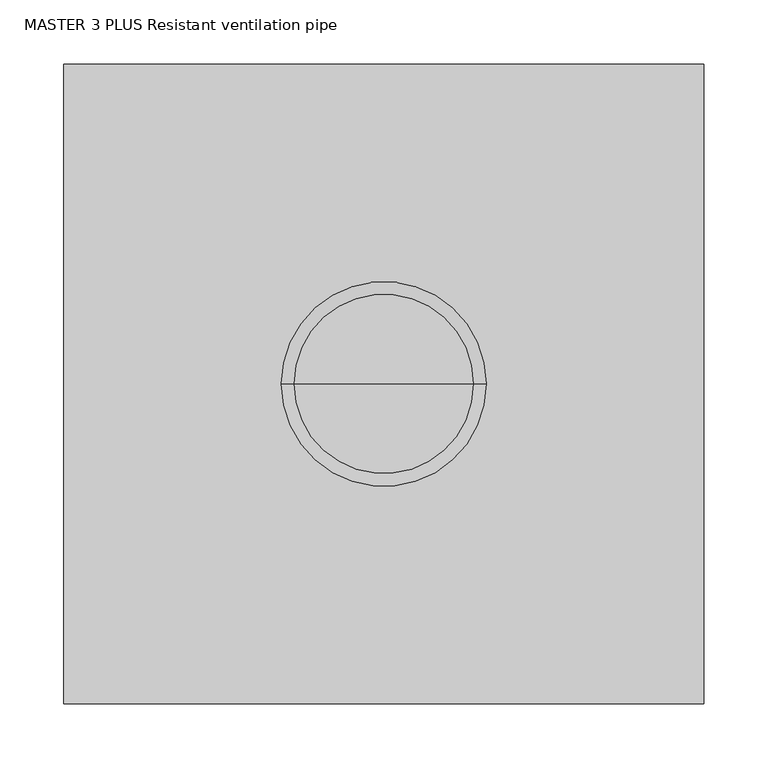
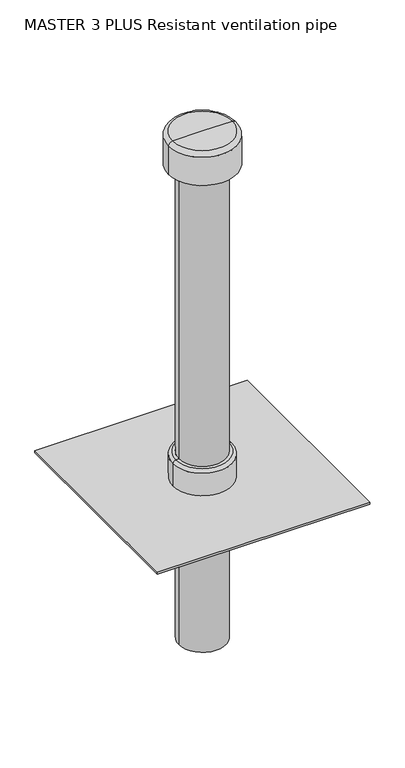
"""IFC4 building model written with IfcOpenShell, lengths in millimetres: valve geometry, MASTER 3 PLUS Resistant ventilation pipe : DN110, Lesp = 400, L3 = 860 mm."""

from ifc_helpers import new_model, si_unit, point, frame, origin, origin_with_axes, origin_2d, place, context, project, spatial, polyline, circle_curve, ellipse_curve, trimmed, segment, composite_curve, outline, extrude, source, transform, mapped, element, save
from ifc_brep_helpers import plane_surface, cylinder_surface, revolved_surface, advanced_brep


def master_3_plus_resistant_ventilation_pipe_e84030fa(model_context):
    return source(origin(), model_context, "Body", "SolidModel", [
        advanced_brep(
        [(70.0, 0.0, 1260.0), (-70.0, 0.0, 1260.0), (0.0, 0.0, 1260.0), (80.0, 0.0, 1180.0), (-80.0, 0.0, 1180.0), (-80.0, 0.0, 1250.0), (80.0, 0.0, 1250.0), (0.0, 0.0, 1180.0)],
        [
            (0, 1, circle_curve(frame((0.0, 0.0, 1260.0), z_axis=(0.0, 0.0, 1.0), x_axis=(-1.0, 0.0, 0.0)), 70.0)),
            (1, 2),
            (2, 0),
            (1, 0, circle_curve(frame((0.0, 0.0, 1260.0), z_axis=(0.0, 0.0, 1.0), x_axis=(-1.0, 0.0, 0.0)), 70.0)),
            (3, 4, circle_curve(frame((0.0, 0.0, 1180.0), z_axis=(0.0, 0.0, 1.0), x_axis=(-1.0, 0.0, 0.0)), 80.0)),
            (4, 5),
            (5, 6, circle_curve(frame((0.0, 0.0, 1250.0), z_axis=(0.0, 0.0, -1.0), x_axis=(-1.0, 0.0, 0.0)), 80.0)),
            (6, 3),
            (4, 3, circle_curve(frame((0.0, 0.0, 1180.0), z_axis=(0.0, 0.0, 1.0), x_axis=(-1.0, 0.0, 0.0)), 80.0)),
            (6, 5, circle_curve(frame((0.0, 0.0, 1250.0), z_axis=(0.0, 0.0, -1.0), x_axis=(-1.0, 0.0, 0.0)), 80.0)),
            (7, 4),
            (3, 7),
            (5, 1, circle_curve(frame((-70.0, 0.0, 1250.0), z_axis=(0.0, 1.0, 0.0), x_axis=(1.0, 0.0, 0.0)), 10.0)),
            (0, 6, circle_curve(frame((70.0, 0.0, 1250.0), z_axis=(0.0, 1.0, 0.0), x_axis=(-1.0, 0.0, 0.0)), 10.0)),
        ],
        [
            plane_surface(frame((0.0, 0.0, 1260.0), z_axis=(0.0, 0.0, 1.0), x_axis=(-1.0, 0.0, 0.0))),
            cylinder_surface(frame((0.0, 0.0, 1260.0), z_axis=(0.0, 0.0, -1.0), x_axis=(-1.0, 0.0, 0.0)), 80.0),
            plane_surface(frame((0.0, 0.0, 1180.0), z_axis=(0.0, 0.0, -1.0), x_axis=(-1.0, 0.0, 0.0))),
            revolved_surface(trimmed(ellipse_curve(frame((-70.0, 0.0, 1250.0), z_axis=(0.0, -1.0, 0.0), x_axis=(1.0, 0.0, 0.0)), 10.0, 10.0), [point((-70.0, 0.0, 1260.0))], [point((-80.0, 0.0, 1250.0))], True, "CARTESIAN"), (0.0, 0.0, 1260.0), (0.0, 0.0, -1.0)),
        ],
        [
            (0, [[1, 2, 3]]),
            (0, [[4, -3, -2]]),
            (1, [[5, 6, 7, 8]]),
            (1, [[9, -8, 10, -6]]),
            (2, [[11, -5, 12]]),
            (2, [[-12, -9, -11]]),
            (3, [[-7, 13, -1, 14]]),
            (3, [[-10, -14, -4, -13]]),
        ],
    ),
        extrude(outline(polyline([(250.0, 250.0), (250.0, -250.0), (-250.0, -250.0), (-250.0, 250.0), (250.0, 250.0)]), holes=[composite_curve([segment(trimmed(circle_curve(origin_2d(), 55.0), [point((-55.0, 0.0))], [point((55.0, 0.0))], True, "CARTESIAN"), True, "CONTINUOUS"), segment(trimmed(circle_curve(origin_2d(), 55.0), [point((55.0, 0.0))], [point((-55.0, 0.0))], True, "CARTESIAN"), True, "CONTINUOUS")], self_intersect=False)]), frame((0.0, 0.0, 394.9838403), z_axis=(0.0, 0.0, 1.0), x_axis=(1.0, 0.0, 0.0)), (0.0, 0.0, 1.0), 5.0161597),
        advanced_brep(
        [(69.5, 0.0, 400.0), (-69.5, 0.0, 400.0), (-69.5, 0.0, 455.75), (69.5, 0.0, 455.75), (55.0, 0.0, 400.0), (-55.0, 0.0, 400.0), (55.0, 0.0, 463.0), (-55.0, 0.0, 463.0), (62.25, 0.0, 463.0), (-62.25, 0.0, 463.0)],
        [
            (0, 1, circle_curve(frame((0.0, 0.0, 400.0), z_axis=(0.0, 0.0, 1.0), x_axis=(-1.0, 0.0, 0.0)), 69.5)),
            (1, 2),
            (2, 3, circle_curve(frame((0.0, 0.0, 455.75), z_axis=(0.0, 0.0, -1.0), x_axis=(-1.0, 0.0, 0.0)), 69.5)),
            (3, 0),
            (1, 0, circle_curve(frame((0.0, 0.0, 400.0), z_axis=(0.0, 0.0, 1.0), x_axis=(-1.0, 0.0, 0.0)), 69.5)),
            (3, 2, circle_curve(frame((0.0, 0.0, 455.75), z_axis=(0.0, 0.0, -1.0), x_axis=(-1.0, 0.0, 0.0)), 69.5)),
            (4, 5, circle_curve(frame((0.0, 0.0, 400.0), z_axis=(0.0, 0.0, 1.0), x_axis=(-1.0, 0.0, 0.0)), 55.0)),
            (5, 1),
            (0, 4),
            (5, 4, circle_curve(frame((0.0, 0.0, 400.0), z_axis=(0.0, 0.0, 1.0), x_axis=(-1.0, 0.0, 0.0)), 55.0)),
            (6, 7, circle_curve(frame((0.0, 0.0, 463.0), z_axis=(0.0, 0.0, 1.0), x_axis=(-1.0, 0.0, 0.0)), 55.0)),
            (7, 5),
            (4, 6),
            (7, 6, circle_curve(frame((0.0, 0.0, 463.0), z_axis=(0.0, 0.0, 1.0), x_axis=(-1.0, 0.0, 0.0)), 55.0)),
            (8, 9, circle_curve(frame((0.0, 0.0, 463.0), z_axis=(0.0, 0.0, 1.0), x_axis=(-1.0, 0.0, 0.0)), 62.25)),
            (9, 7),
            (6, 8),
            (9, 8, circle_curve(frame((0.0, 0.0, 463.0), z_axis=(0.0, 0.0, 1.0), x_axis=(-1.0, 0.0, 0.0)), 62.25)),
            (2, 9, circle_curve(frame((-62.25, 0.0, 455.75), z_axis=(0.0, 1.0, 0.0), x_axis=(1.0, 0.0, 0.0)), 7.25)),
            (8, 3, circle_curve(frame((62.25, 0.0, 455.75), z_axis=(0.0, 1.0, 0.0), x_axis=(-1.0, 0.0, 0.0)), 7.25)),
        ],
        [
            cylinder_surface(frame((0.0, 0.0, 463.0), z_axis=(0.0, 0.0, -1.0), x_axis=(-1.0, 0.0, 0.0)), 69.5),
            plane_surface(frame((0.0, 0.0, 400.0), z_axis=(0.0, 0.0, -1.0), x_axis=(-1.0, 0.0, 0.0))),
            revolved_surface(polyline([(-55.0, 0.0, 400.0), (-55.0, 0.0, 463.0)]), (0.0, 0.0, 463.0), (0.0, 0.0, -1.0)),
            plane_surface(frame((0.0, 0.0, 463.0), z_axis=(0.0, 0.0, 1.0), x_axis=(-1.0, 0.0, 0.0))),
            revolved_surface(trimmed(ellipse_curve(frame((-62.25, 0.0, 455.75), z_axis=(0.0, -1.0, 0.0), x_axis=(1.0, 0.0, 0.0)), 7.25, 7.25), [point((-62.25, 0.0, 463.0))], [point((-69.5, 0.0, 455.75))], True, "CARTESIAN"), (0.0, 0.0, 463.0), (0.0, 0.0, -1.0)),
        ],
        [
            (0, [[1, 2, 3, 4]]),
            (0, [[5, -4, 6, -2]]),
            (1, [[7, 8, -1, 9]]),
            (1, [[10, -9, -5, -8]]),
            (2, [[11, 12, -7, 13]]),
            (2, [[14, -13, -10, -12]]),
            (3, [[15, 16, -11, 17]]),
            (3, [[18, -17, -14, -16]]),
            (4, [[-3, 19, -15, 20]]),
            (4, [[-6, -20, -18, -19]]),
        ],
    ),
        extrude(outline(composite_curve([segment(trimmed(circle_curve(origin_2d(), 55.0), [point((55.0, 0.0))], [point((-55.0, 0.0))], False, "CARTESIAN"), True, "CONTINUOUS"), segment(trimmed(circle_curve(origin_2d(), 55.0), [point((-55.0, 0.0))], [point((55.0, 0.0))], False, "CARTESIAN"), True, "CONTINUOUS")], self_intersect=False)), frame((0.0, 0.0, 400.0), z_axis=(0.0, 0.0, 1.0), x_axis=(1.0, 0.0, 0.0)), (0.0, 0.0, 1.0), 832.0),
        extrude(outline(composite_curve([segment(trimmed(circle_curve(origin_2d(), 55.0), [point((-55.0, 0.0))], [point((55.0, 0.0))], False, "CARTESIAN"), True, "CONTINUOUS"), segment(trimmed(circle_curve(origin_2d(), 55.0), [point((55.0, 0.0))], [point((-55.0, 0.0))], False, "CARTESIAN"), True, "CONTINUOUS")], self_intersect=False)), origin_with_axes(), (0.0, 0.0, 1.0), 394.9838403),
    ])


if __name__ == "__main__":
    model = new_model("IFC4")
    model_context = context("Model", 3, world=origin())
    ifc_project = project(units=[si_unit("LENGTHUNIT", "METRE", prefix="MILLI")], contexts=[model_context])
    site = spatial("IfcSite", under=ifc_project)
    building = spatial("IfcBuilding", under=site)
    placement = place(None, origin())
    master_3_plus_resistant_ventilation_pipe_shape = master_3_plus_resistant_ventilation_pipe_e84030fa(model_context)
    element("IfcValve", 1, ObjectType="MASTER 3 PLUS Resistant ventilation pipe : DN110, Lesp = 400, L3 = 860 mm", at=placement, inside=building, context=model_context, shape_type="MappedRepresentation", body=[
        mapped(master_3_plus_resistant_ventilation_pipe_shape, transform((0.0, 0.0, 0.0), x_axis=(1.0, 0.0, 0.0), y_axis=(0.0, 1.0, 0.0), z_axis=(0.0, 0.0, 1.0))),
    ])
    save(model, "model.ifc")
